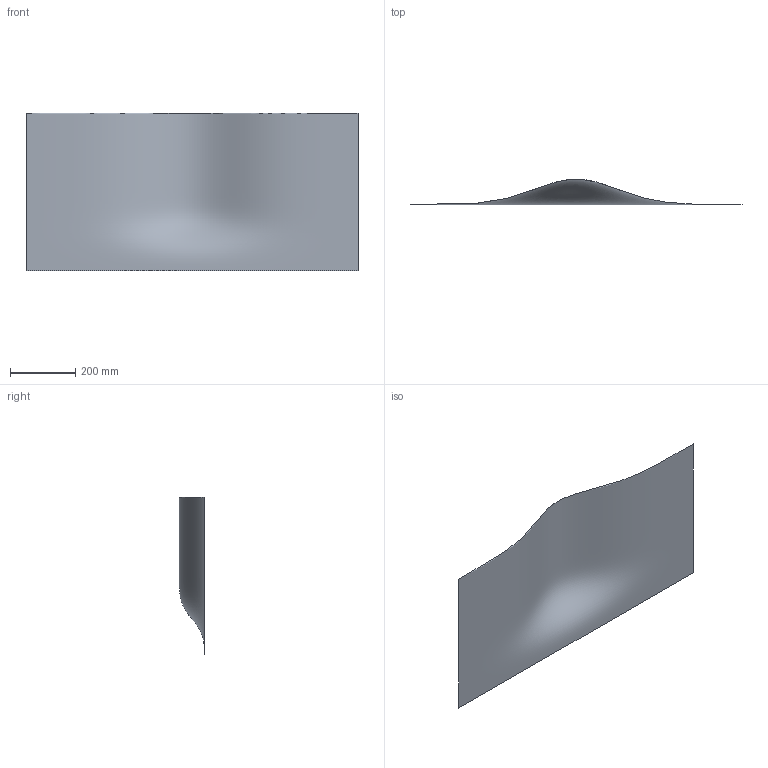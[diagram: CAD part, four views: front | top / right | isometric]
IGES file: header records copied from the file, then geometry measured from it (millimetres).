
Start section: Generated in MADCAP
Global section: file name: SURF.IGS; native system: MADCAP VERSION 7.00; preprocessor: 4.0; date: 920814.234831; units: inch
Bounding box: 1016 x 77.72 x 482.6 mm (x, y, z)
Surface area: 502328.4 mm2 (no closed solid volume)
Topology: 0 solids, 0 shells, 1 faces, 4 edges, 4 vertices
Faces by surface type: bspline 1
